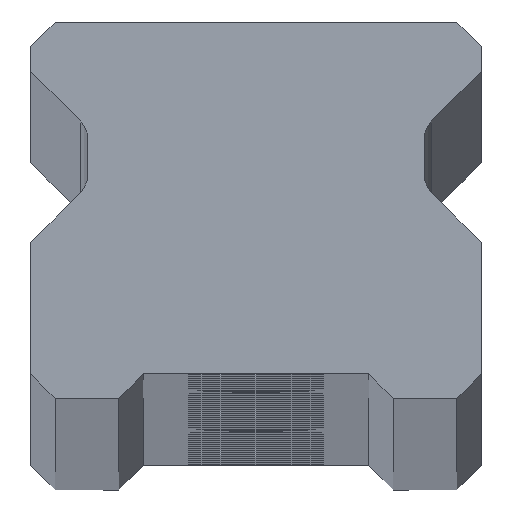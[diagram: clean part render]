
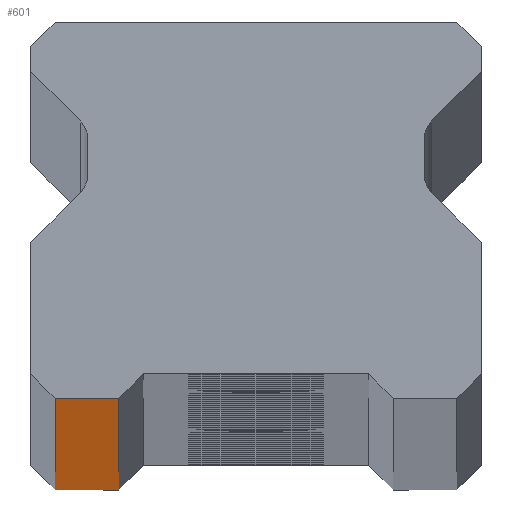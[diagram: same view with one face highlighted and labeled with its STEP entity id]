
A CAD part, top view. The second image highlights one B-rep face of the part: STEP entity #601.
In plain terms, the highlighted planar face has unit normal (0, -1, 0).
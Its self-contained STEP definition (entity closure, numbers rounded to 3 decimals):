
#452 = DIRECTION ( 'NONE',  ( 1., 0., 0. ) ) ;
#601 = ADVANCED_FACE ( 'NONE', ( #1775 ), #3248, .F. ) ;
#641 = CARTESIAN_POINT ( 'NONE',  ( -7., 0., -1340. ) ) ;
#877 = DIRECTION ( 'NONE',  ( 0., 1., 0. ) ) ;
#1247 = LINE ( 'NONE', #5833, #1635 ) ;
#1635 = VECTOR ( 'NONE', #5860, 1000. ) ;
#1775 = FACE_OUTER_BOUND ( 'NONE', #5017, .T. ) ;
#2028 = DIRECTION ( 'NONE',  ( 0., 0., -1. ) ) ;
#2585 = EDGE_CURVE ( 'NONE', #4033, #3093, #3235, .T. ) ;
#2762 = CARTESIAN_POINT ( 'NONE',  ( 11.5, 0., 1340. ) ) ;
#2818 = ORIENTED_EDGE ( 'NONE', *, *, #2585, .T. ) ;
#2822 = VECTOR ( 'NONE', #452, 1000. ) ;
#2845 = ORIENTED_EDGE ( 'NONE', *, *, #4044, .T. ) ;
#3045 = VECTOR ( 'NONE', #6726, 1000. ) ;
#3093 = VERTEX_POINT ( 'NONE', #3095 ) ;
#3095 = CARTESIAN_POINT ( 'NONE',  ( -7., 0., 1340. ) ) ;
#3197 = CARTESIAN_POINT ( 'NONE',  ( -7., 0., -1340. ) ) ;
#3235 = LINE ( 'NONE', #641, #3045 ) ;
#3248 = PLANE ( 'NONE',  #6437 ) ;
#3567 = LINE ( 'NONE', #6511, #2822 ) ;
#4033 = VERTEX_POINT ( 'NONE', #3197 ) ;
#4044 = EDGE_CURVE ( 'NONE', #6685, #5791, #5469, .T. ) ;
#5017 = EDGE_LOOP ( 'NONE', ( #5693, #2818, #6565, #2845 ) ) ;
#5072 = CARTESIAN_POINT ( 'NONE',  ( -10.25, 0., 1340. ) ) ;
#5309 = EDGE_CURVE ( 'NONE', #5791, #4033, #3567, .T. ) ;
#5384 = VECTOR ( 'NONE', #2028, 1000. ) ;
#5469 = LINE ( 'NONE', #6769, #5384 ) ;
#5693 = ORIENTED_EDGE ( 'NONE', *, *, #5309, .T. ) ;
#5791 = VERTEX_POINT ( 'NONE', #6102 ) ;
#5833 = CARTESIAN_POINT ( 'NONE',  ( 11.5, 0., 1340. ) ) ;
#5860 = DIRECTION ( 'NONE',  ( 1., 0., 0. ) ) ;
#6102 = CARTESIAN_POINT ( 'NONE',  ( -10.25, 0., -1340. ) ) ;
#6157 = EDGE_CURVE ( 'NONE', #6685, #3093, #1247, .T. ) ;
#6325 = DIRECTION ( 'NONE',  ( -1., 0., 0. ) ) ;
#6437 = AXIS2_PLACEMENT_3D ( 'NONE', #2762, #877, #6325 ) ;
#6511 = CARTESIAN_POINT ( 'NONE',  ( 11.5, 0., -1340. ) ) ;
#6565 = ORIENTED_EDGE ( 'NONE', *, *, #6157, .F. ) ;
#6685 = VERTEX_POINT ( 'NONE', #5072 ) ;
#6726 = DIRECTION ( 'NONE',  ( 0., 0., 1. ) ) ;
#6769 = CARTESIAN_POINT ( 'NONE',  ( -10.25, 0., 1340. ) ) ;
